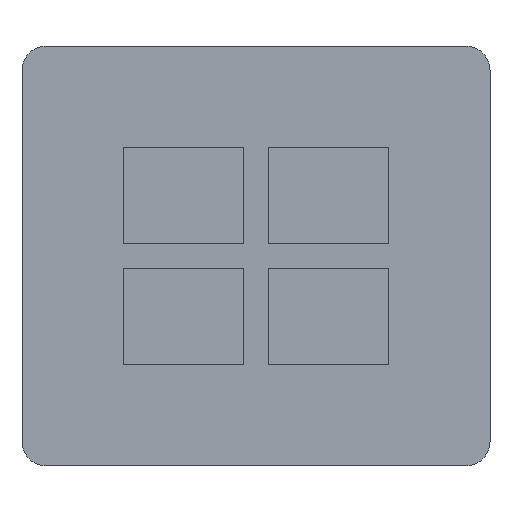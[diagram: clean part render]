
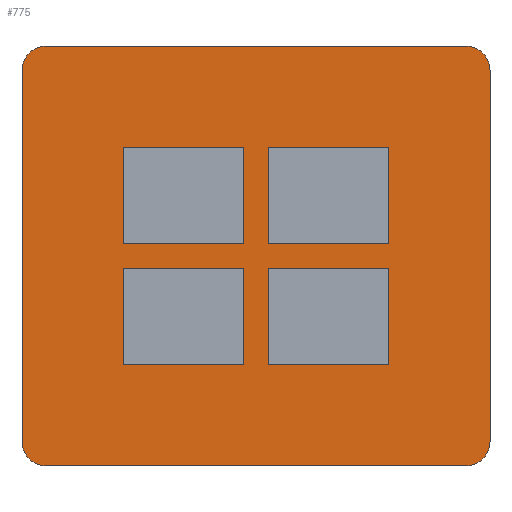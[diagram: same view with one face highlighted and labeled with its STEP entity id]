
A CAD part, front view. The second image highlights one B-rep face of the part: STEP entity #775.
In plain terms, the highlighted planar face has unit normal (0, -1, 0).
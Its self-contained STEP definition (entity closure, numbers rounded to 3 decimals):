
#22=FACE_BOUND('',#143,.T.);
#23=FACE_BOUND('',#144,.T.);
#24=FACE_BOUND('',#145,.T.);
#25=FACE_BOUND('',#146,.T.);
#26=CIRCLE('',#837,0.5);
#35=CIRCLE('',#849,0.5);
#36=CIRCLE('',#852,0.5);
#37=CIRCLE('',#855,0.5);
#94=FACE_OUTER_BOUND('',#142,.T.);
#142=EDGE_LOOP('',(#628,#629,#630,#631,#632,#633,#634,#635));
#143=EDGE_LOOP('',(#636,#637,#638,#639));
#144=EDGE_LOOP('',(#640,#641,#642,#643));
#145=EDGE_LOOP('',(#644,#645,#646,#647));
#146=EDGE_LOOP('',(#648,#649,#650,#651));
#164=LINE('',#1127,#244);
#168=LINE('',#1135,#248);
#171=LINE('',#1141,#251);
#174=LINE('',#1146,#254);
#176=LINE('',#1152,#256);
#180=LINE('',#1160,#260);
#183=LINE('',#1166,#263);
#186=LINE('',#1171,#266);
#188=LINE('',#1177,#268);
#192=LINE('',#1185,#272);
#195=LINE('',#1191,#275);
#198=LINE('',#1196,#278);
#200=LINE('',#1202,#280);
#204=LINE('',#1210,#284);
#207=LINE('',#1216,#287);
#210=LINE('',#1221,#290);
#216=LINE('',#1238,#296);
#226=LINE('',#1274,#306);
#229=LINE('',#1282,#309);
#231=LINE('',#1288,#311);
#244=VECTOR('',#895,10.);
#248=VECTOR('',#901,10.);
#251=VECTOR('',#906,10.);
#254=VECTOR('',#911,10.);
#256=VECTOR('',#917,10.);
#260=VECTOR('',#923,10.);
#263=VECTOR('',#928,10.);
#266=VECTOR('',#933,10.);
#268=VECTOR('',#939,10.);
#272=VECTOR('',#945,10.);
#275=VECTOR('',#950,10.);
#278=VECTOR('',#955,10.);
#280=VECTOR('',#961,10.);
#284=VECTOR('',#967,10.);
#287=VECTOR('',#972,10.);
#290=VECTOR('',#977,10.);
#296=VECTOR('',#993,10.);
#306=VECTOR('',#1025,10.);
#309=VECTOR('',#1034,10.);
#311=VECTOR('',#1042,10.);
#324=VERTEX_POINT('',#1125);
#325=VERTEX_POINT('',#1126);
#328=VERTEX_POINT('',#1134);
#330=VERTEX_POINT('',#1140);
#332=VERTEX_POINT('',#1150);
#333=VERTEX_POINT('',#1151);
#336=VERTEX_POINT('',#1159);
#338=VERTEX_POINT('',#1165);
#340=VERTEX_POINT('',#1175);
#341=VERTEX_POINT('',#1176);
#344=VERTEX_POINT('',#1184);
#346=VERTEX_POINT('',#1190);
#348=VERTEX_POINT('',#1200);
#349=VERTEX_POINT('',#1201);
#352=VERTEX_POINT('',#1209);
#354=VERTEX_POINT('',#1215);
#356=VERTEX_POINT('',#1225);
#357=VERTEX_POINT('',#1226);
#361=VERTEX_POINT('',#1236);
#375=VERTEX_POINT('',#1268);
#376=VERTEX_POINT('',#1272);
#377=VERTEX_POINT('',#1276);
#378=VERTEX_POINT('',#1280);
#379=VERTEX_POINT('',#1284);
#392=EDGE_CURVE('',#324,#325,#164,.T.);
#396=EDGE_CURVE('',#328,#324,#168,.T.);
#399=EDGE_CURVE('',#330,#328,#171,.T.);
#402=EDGE_CURVE('',#325,#330,#174,.T.);
#404=EDGE_CURVE('',#332,#333,#176,.T.);
#408=EDGE_CURVE('',#336,#332,#180,.T.);
#411=EDGE_CURVE('',#338,#336,#183,.T.);
#414=EDGE_CURVE('',#333,#338,#186,.T.);
#416=EDGE_CURVE('',#340,#341,#188,.T.);
#420=EDGE_CURVE('',#344,#340,#192,.T.);
#423=EDGE_CURVE('',#346,#344,#195,.T.);
#426=EDGE_CURVE('',#341,#346,#198,.T.);
#428=EDGE_CURVE('',#348,#349,#200,.T.);
#432=EDGE_CURVE('',#352,#348,#204,.T.);
#435=EDGE_CURVE('',#354,#352,#207,.T.);
#438=EDGE_CURVE('',#349,#354,#210,.T.);
#440=EDGE_CURVE('',#356,#357,#26,.T.);
#446=EDGE_CURVE('',#356,#361,#216,.T.);
#461=EDGE_CURVE('',#375,#361,#35,.T.);
#464=EDGE_CURVE('',#375,#376,#226,.T.);
#465=EDGE_CURVE('',#377,#376,#36,.T.);
#468=EDGE_CURVE('',#377,#378,#229,.T.);
#469=EDGE_CURVE('',#379,#378,#37,.T.);
#471=EDGE_CURVE('',#379,#357,#231,.T.);
#628=ORIENTED_EDGE('',*,*,#440,.F.);
#629=ORIENTED_EDGE('',*,*,#446,.T.);
#630=ORIENTED_EDGE('',*,*,#461,.F.);
#631=ORIENTED_EDGE('',*,*,#464,.T.);
#632=ORIENTED_EDGE('',*,*,#465,.F.);
#633=ORIENTED_EDGE('',*,*,#468,.T.);
#634=ORIENTED_EDGE('',*,*,#469,.F.);
#635=ORIENTED_EDGE('',*,*,#471,.T.);
#636=ORIENTED_EDGE('',*,*,#392,.T.);
#637=ORIENTED_EDGE('',*,*,#402,.T.);
#638=ORIENTED_EDGE('',*,*,#399,.T.);
#639=ORIENTED_EDGE('',*,*,#396,.T.);
#640=ORIENTED_EDGE('',*,*,#404,.T.);
#641=ORIENTED_EDGE('',*,*,#414,.T.);
#642=ORIENTED_EDGE('',*,*,#411,.T.);
#643=ORIENTED_EDGE('',*,*,#408,.T.);
#644=ORIENTED_EDGE('',*,*,#416,.T.);
#645=ORIENTED_EDGE('',*,*,#426,.T.);
#646=ORIENTED_EDGE('',*,*,#423,.T.);
#647=ORIENTED_EDGE('',*,*,#420,.T.);
#648=ORIENTED_EDGE('',*,*,#428,.T.);
#649=ORIENTED_EDGE('',*,*,#438,.T.);
#650=ORIENTED_EDGE('',*,*,#435,.T.);
#651=ORIENTED_EDGE('',*,*,#432,.T.);
#741=PLANE('',#857);
#775=ADVANCED_FACE('',(#94,#22,#23,#24,#25),#741,.T.);
#837=AXIS2_PLACEMENT_3D('',#1227,#983,#984);
#849=AXIS2_PLACEMENT_3D('',#1269,#1019,#1020);
#852=AXIS2_PLACEMENT_3D('',#1277,#1028,#1029);
#855=AXIS2_PLACEMENT_3D('',#1285,#1037,#1038);
#857=AXIS2_PLACEMENT_3D('',#1289,#1043,#1044);
#895=DIRECTION('',(-1.,0.,0.));
#901=DIRECTION('',(0.,0.,-1.));
#906=DIRECTION('',(1.,0.,0.));
#911=DIRECTION('',(0.,0.,1.));
#917=DIRECTION('',(1.,0.,0.));
#923=DIRECTION('',(0.,0.,1.));
#928=DIRECTION('',(-1.,0.,0.));
#933=DIRECTION('',(0.,0.,-1.));
#939=DIRECTION('',(-1.,0.,0.));
#945=DIRECTION('',(0.,0.,-1.));
#950=DIRECTION('',(1.,0.,0.));
#955=DIRECTION('',(0.,0.,1.));
#961=DIRECTION('',(1.,0.,0.));
#967=DIRECTION('',(0.,0.,1.));
#972=DIRECTION('',(-1.,0.,0.));
#977=DIRECTION('',(0.,0.,-1.));
#983=DIRECTION('center_axis',(0.,1.,0.));
#984=DIRECTION('ref_axis',(0.707,0.,-0.707));
#993=DIRECTION('',(0.,0.,1.));
#1019=DIRECTION('center_axis',(0.,1.,0.));
#1020=DIRECTION('ref_axis',(0.707,0.,0.707));
#1025=DIRECTION('',(-1.,0.,0.));
#1028=DIRECTION('center_axis',(0.,1.,0.));
#1029=DIRECTION('ref_axis',(-0.707,0.,0.707));
#1034=DIRECTION('',(0.,0.,-1.));
#1037=DIRECTION('center_axis',(0.,1.,0.));
#1038=DIRECTION('ref_axis',(-0.707,0.,-0.707));
#1042=DIRECTION('',(1.,0.,0.));
#1043=DIRECTION('center_axis',(0.,-1.,0.));
#1044=DIRECTION('ref_axis',(0.,0.,-1.));
#1125=CARTESIAN_POINT('',(-6.914,2.376,1.425));
#1126=CARTESIAN_POINT('',(-9.414,2.376,1.425));
#1127=CARTESIAN_POINT('',(-8.289,2.376,1.425));
#1134=CARTESIAN_POINT('',(-6.914,2.376,3.425));
#1135=CARTESIAN_POINT('',(-6.914,2.376,3.55));
#1140=CARTESIAN_POINT('',(-9.414,2.376,3.425));
#1141=CARTESIAN_POINT('',(-9.539,2.376,3.425));
#1146=CARTESIAN_POINT('',(-9.414,2.376,2.55));
#1150=CARTESIAN_POINT('',(-9.414,2.376,5.925));
#1151=CARTESIAN_POINT('',(-6.914,2.376,5.925));
#1152=CARTESIAN_POINT('',(-9.539,2.376,5.925));
#1159=CARTESIAN_POINT('',(-9.414,2.376,3.925));
#1160=CARTESIAN_POINT('',(-9.414,2.376,3.8));
#1165=CARTESIAN_POINT('',(-6.914,2.376,3.925));
#1166=CARTESIAN_POINT('',(-8.289,2.376,3.925));
#1171=CARTESIAN_POINT('',(-6.914,2.376,4.8));
#1175=CARTESIAN_POINT('',(-9.914,2.376,1.425));
#1176=CARTESIAN_POINT('',(-12.414,2.376,1.425));
#1177=CARTESIAN_POINT('',(-9.789,2.376,1.425));
#1184=CARTESIAN_POINT('',(-9.914,2.376,3.425));
#1185=CARTESIAN_POINT('',(-9.914,2.376,3.55));
#1190=CARTESIAN_POINT('',(-12.414,2.376,3.425));
#1191=CARTESIAN_POINT('',(-11.039,2.376,3.425));
#1196=CARTESIAN_POINT('',(-12.414,2.376,2.55));
#1200=CARTESIAN_POINT('',(-12.414,2.376,5.925));
#1201=CARTESIAN_POINT('',(-9.914,2.376,5.925));
#1202=CARTESIAN_POINT('',(-11.039,2.376,5.925));
#1209=CARTESIAN_POINT('',(-12.414,2.376,3.925));
#1210=CARTESIAN_POINT('',(-12.414,2.376,3.8));
#1215=CARTESIAN_POINT('',(-9.914,2.376,3.925));
#1216=CARTESIAN_POINT('',(-9.789,2.376,3.925));
#1221=CARTESIAN_POINT('',(-9.914,2.376,4.8));
#1225=CARTESIAN_POINT('',(-4.814,2.376,-0.175));
#1226=CARTESIAN_POINT('',(-5.314,2.376,-0.675));
#1227=CARTESIAN_POINT('Origin',(-5.314,2.376,-0.175));
#1236=CARTESIAN_POINT('',(-4.814,2.376,7.525));
#1238=CARTESIAN_POINT('',(-4.814,2.376,-0.675));
#1268=CARTESIAN_POINT('',(-5.314,2.376,8.025));
#1269=CARTESIAN_POINT('Origin',(-5.314,2.376,7.525));
#1272=CARTESIAN_POINT('',(-14.014,2.376,8.025));
#1274=CARTESIAN_POINT('',(-4.814,2.376,8.025));
#1276=CARTESIAN_POINT('',(-14.514,2.376,7.525));
#1277=CARTESIAN_POINT('Origin',(-14.014,2.376,7.525));
#1280=CARTESIAN_POINT('',(-14.514,2.376,-0.175));
#1282=CARTESIAN_POINT('',(-14.514,2.376,8.025));
#1284=CARTESIAN_POINT('',(-14.014,2.376,-0.675));
#1285=CARTESIAN_POINT('Origin',(-14.014,2.376,-0.175));
#1288=CARTESIAN_POINT('',(-14.514,2.376,-0.675));
#1289=CARTESIAN_POINT('Origin',(-9.664,2.376,3.675));
